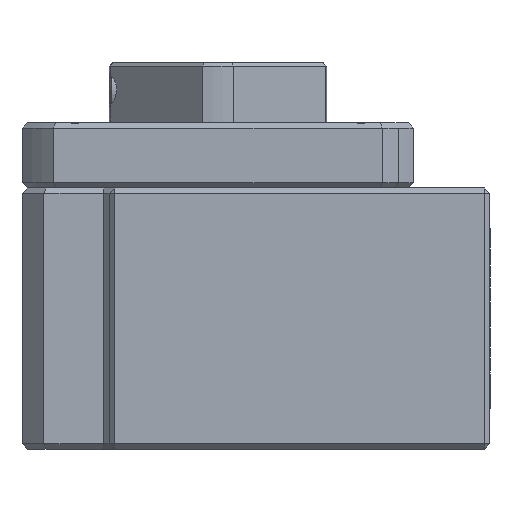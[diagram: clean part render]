
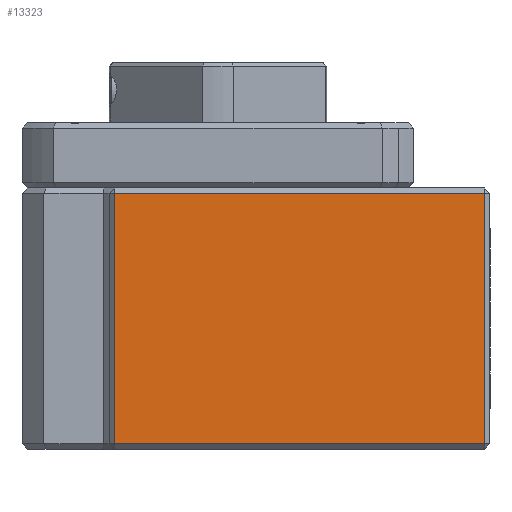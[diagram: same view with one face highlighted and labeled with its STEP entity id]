
A CAD part, left-side view. The second image highlights one B-rep face of the part: STEP entity #13323.
In plain terms, the highlighted planar face has unit normal (-1, 0, 0).
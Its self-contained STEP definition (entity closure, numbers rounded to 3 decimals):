
#3872 = EDGE_LOOP ( 'NONE', ( #12609, #12611, #12610, #12612 ) ) ;
#5060 = PLANE ( 'NONE',  #5391 ) ;
#5061 = CARTESIAN_POINT ( 'NONE',  ( -35., 10., 12. ) ) ;
#5062 = DIRECTION ( 'NONE',  ( 1., 0., 0. ) ) ;
#5063 = DIRECTION ( 'NONE',  ( 0., 1., 0. ) ) ;
#5391 = AXIS2_PLACEMENT_3D ( 'NONE', #5061, #5062, #5063 ) ;
#5392 = FACE_OUTER_BOUND ( 'NONE', #3872, .T. ) ;
#6195 = EDGE_CURVE ( 'NONE', #6768, #6769, #8758, .T. ) ;
#6196 = EDGE_CURVE ( 'NONE', #6767, #6768, #8761, .T. ) ;
#6197 = EDGE_CURVE ( 'NONE', #6769, #6770, #8764, .T. ) ;
#6198 = EDGE_CURVE ( 'NONE', #6770, #6767, #8767, .T. ) ;
#6767 = VERTEX_POINT ( 'NONE', #9577 ) ;
#6768 = VERTEX_POINT ( 'NONE', #9578 ) ;
#6769 = VERTEX_POINT ( 'NONE', #9579 ) ;
#6770 = VERTEX_POINT ( 'NONE', #9580 ) ;
#8758 = LINE ( 'NONE', #8759, #11405 ) ;
#8759 = CARTESIAN_POINT ( 'NONE',  ( -35., 10., -11.5 ) ) ;
#8760 = DIRECTION ( 'NONE',  ( 0., -1., 0. ) ) ;
#8761 = LINE ( 'NONE', #8762, #11406 ) ;
#8762 = CARTESIAN_POINT ( 'NONE',  ( -35., 9.5, 12. ) ) ;
#8763 = DIRECTION ( 'NONE',  ( 0., 0., -1. ) ) ;
#8764 = LINE ( 'NONE', #8765, #11407 ) ;
#8765 = CARTESIAN_POINT ( 'NONE',  ( -35., -24.5, 12. ) ) ;
#8766 = DIRECTION ( 'NONE',  ( 0., 0., 1. ) ) ;
#8767 = LINE ( 'NONE', #8768, #11408 ) ;
#8768 = CARTESIAN_POINT ( 'NONE',  ( -35., 10., 11.5 ) ) ;
#8769 = DIRECTION ( 'NONE',  ( 0., 1., 0. ) ) ;
#9577 = CARTESIAN_POINT ( 'NONE',  ( -35., 9.5, 11.5 ) ) ;
#9578 = CARTESIAN_POINT ( 'NONE',  ( -35., 9.5, -11.5 ) ) ;
#9579 = CARTESIAN_POINT ( 'NONE',  ( -35., -24.5, -11.5 ) ) ;
#9580 = CARTESIAN_POINT ( 'NONE',  ( -35., -24.5, 11.5 ) ) ;
#11405 = VECTOR ( 'NONE', #8760, 1000. ) ;
#11406 = VECTOR ( 'NONE', #8763, 1000. ) ;
#11407 = VECTOR ( 'NONE', #8766, 1000. ) ;
#11408 = VECTOR ( 'NONE', #8769, 1000. ) ;
#12609 = ORIENTED_EDGE ( 'NONE', *, *, #6196, .T. ) ;
#12610 = ORIENTED_EDGE ( 'NONE', *, *, #6197, .T. ) ;
#12611 = ORIENTED_EDGE ( 'NONE', *, *, #6195, .T. ) ;
#12612 = ORIENTED_EDGE ( 'NONE', *, *, #6198, .T. ) ;
#13323 = ADVANCED_FACE ( 'NONE', ( #5392 ), #5060, .F. ) ;
